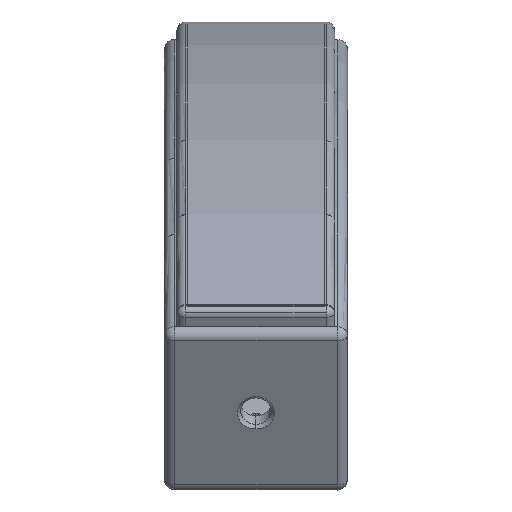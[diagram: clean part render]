
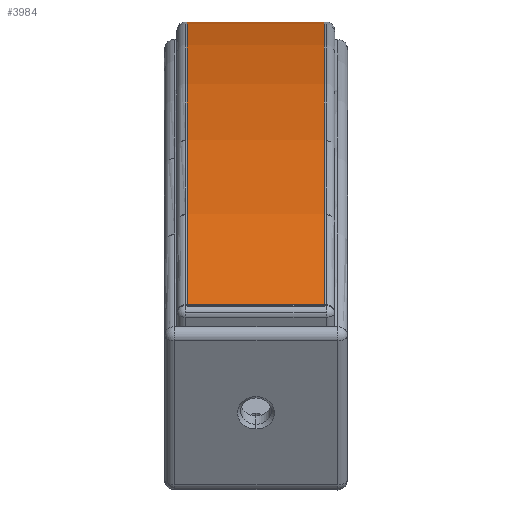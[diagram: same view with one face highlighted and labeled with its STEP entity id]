
A CAD part, front view. The second image highlights one B-rep face of the part: STEP entity #3984.
In plain terms, the highlighted cylindrical face has radius 1100 mm (diameter 2200 mm), a partial arc.
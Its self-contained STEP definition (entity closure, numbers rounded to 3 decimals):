
#889 = VERTEX_POINT ( 'NONE', #1768 ) ;
#895 = EDGE_CURVE ( 'NONE', #889, #942, #1766, .T. ) ;
#942 = VERTEX_POINT ( 'NONE', #1811 ) ;
#1157 = VERTEX_POINT ( 'NONE', #1807 ) ;
#1427 = EDGE_CURVE ( 'NONE', #1157, #889, #1795, .T. ) ;
#1762 = DIRECTION ( 'NONE',  ( 0., 1., 0. ) ) ;
#1763 = DIRECTION ( 'NONE',  ( 1., 0., 0. ) ) ;
#1764 = CARTESIAN_POINT ( 'NONE',  ( -164.71, 27.994, -1042.815 ) ) ;
#1765 = AXIS2_PLACEMENT_3D ( 'NONE', #1764, #1763, #1762 ) ;
#1766 = CIRCLE ( 'NONE', #1765, 1100. ) ;
#1768 = CARTESIAN_POINT ( 'NONE',  ( -164.71, 68.447, 56.441 ) ) ;
#1789 = DIRECTION ( 'NONE',  ( -1., 0., 0. ) ) ;
#1790 = VECTOR ( 'NONE', #1789, 1000. ) ;
#1791 = CARTESIAN_POINT ( 'NONE',  ( 563.136, 68.447, 56.441 ) ) ;
#1795 = LINE ( 'NONE', #1791, #1790 ) ;
#1807 = CARTESIAN_POINT ( 'NONE',  ( -83.71, 68.447, 56.441 ) ) ;
#1811 = CARTESIAN_POINT ( 'NONE',  ( -164.71, -556.017, -110.65 ) ) ;
#1916 = DIRECTION ( 'NONE',  ( -1., 0., 0. ) ) ;
#1917 = CARTESIAN_POINT ( 'NONE',  ( -83.71, 27.994, -1042.815 ) ) ;
#1918 = AXIS2_PLACEMENT_3D ( 'NONE', #1917, #1916, #1980 ) ;
#1919 = CIRCLE ( 'NONE', #1918, 1100. ) ;
#1969 = CARTESIAN_POINT ( 'NONE',  ( -83.71, -556.017, -110.65 ) ) ;
#1970 = DIRECTION ( 'NONE',  ( -1., 0., 0. ) ) ;
#1971 = VECTOR ( 'NONE', #1970, 1000. ) ;
#1972 = CARTESIAN_POINT ( 'NONE',  ( 563.136, -556.017, -110.65 ) ) ;
#1973 = LINE ( 'NONE', #1972, #1971 ) ;
#1974 = DIRECTION ( 'NONE',  ( 0., -1., 0. ) ) ;
#1975 = DIRECTION ( 'NONE',  ( -1., 0., 0. ) ) ;
#1976 = AXIS2_PLACEMENT_3D ( 'NONE', #1977, #1975, #1974 ) ;
#1977 = CARTESIAN_POINT ( 'NONE',  ( 563.136, 27.994, -1042.815 ) ) ;
#1978 = CYLINDRICAL_SURFACE ( 'NONE', #1976, 1100. ) ;
#1979 = FACE_OUTER_BOUND ( 'NONE', #3988, .T. ) ;
#1980 = DIRECTION ( 'NONE',  ( 0., -1., 0. ) ) ;
#3977 = ORIENTED_EDGE ( 'NONE', *, *, #1427, .T. ) ;
#3979 = ORIENTED_EDGE ( 'NONE', *, *, #3986, .F. ) ;
#3980 = ORIENTED_EDGE ( 'NONE', *, *, #3981, .T. ) ;
#3981 = EDGE_CURVE ( 'NONE', #3987, #1157, #1919, .T. ) ;
#3984 = ADVANCED_FACE ( 'NONE', ( #1979 ), #1978, .T. ) ;
#3986 = EDGE_CURVE ( 'NONE', #3987, #942, #1973, .T. ) ;
#3987 = VERTEX_POINT ( 'NONE', #1969 ) ;
#3988 = EDGE_LOOP ( 'NONE', ( #3979, #3980, #3977, #4335 ) ) ;
#4335 = ORIENTED_EDGE ( 'NONE', *, *, #895, .T. ) ;
